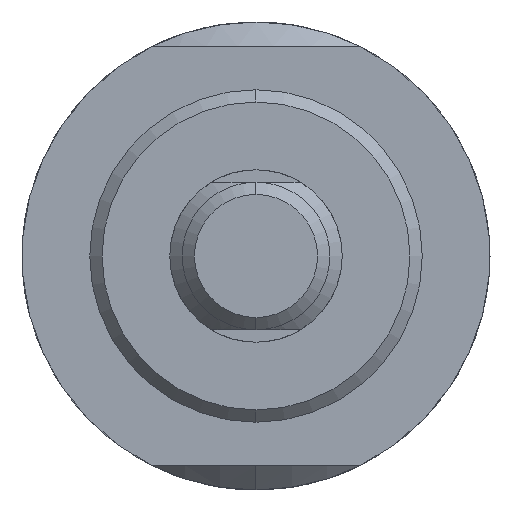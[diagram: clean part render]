
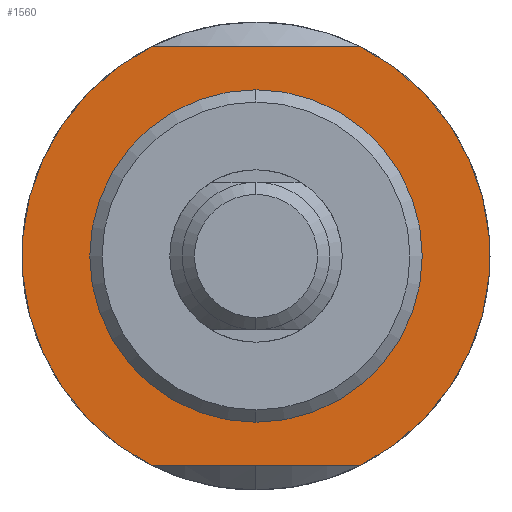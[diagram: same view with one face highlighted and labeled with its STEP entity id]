
A CAD part, left-side view. The second image highlights one B-rep face of the part: STEP entity #1560.
In plain terms, the highlighted planar face has unit normal (-1, 0, 0).
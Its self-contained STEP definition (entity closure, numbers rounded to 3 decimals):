
#97 = EDGE_CURVE ( 'NONE', #1385, #1202, #1181, .T. ) ;
#142 = CARTESIAN_POINT ( 'NONE',  ( 48., 0., 0. ) ) ;
#163 = VERTEX_POINT ( 'NONE', #327 ) ;
#209 = LINE ( 'NONE', #388, #1425 ) ;
#211 = AXIS2_PLACEMENT_3D ( 'NONE', #1589, #710, #1834 ) ;
#248 = DIRECTION ( 'NONE',  ( -1., 0., 0. ) ) ;
#249 = DIRECTION ( 'NONE',  ( -1., 0., 0. ) ) ;
#250 = EDGE_CURVE ( 'NONE', #1385, #163, #998, .T. ) ;
#327 = CARTESIAN_POINT ( 'NONE',  ( 48., -8.485, 17. ) ) ;
#343 = CARTESIAN_POINT ( 'NONE',  ( 48., 8.485, 17. ) ) ;
#349 = EDGE_CURVE ( 'NONE', #764, #714, #1074, .T. ) ;
#360 = AXIS2_PLACEMENT_3D ( 'NONE', #1620, #248, #743 ) ;
#388 = CARTESIAN_POINT ( 'NONE',  ( 48., 15., -17. ) ) ;
#390 = CARTESIAN_POINT ( 'NONE',  ( 48., 0., 0. ) ) ;
#413 = ORIENTED_EDGE ( 'NONE', *, *, #349, .F. ) ;
#425 = DIRECTION ( 'NONE',  ( 0., 0., 1. ) ) ;
#604 = ORIENTED_EDGE ( 'NONE', *, *, #1506, .F. ) ;
#646 = DIRECTION ( 'NONE',  ( 0., 0., 1. ) ) ;
#679 = FACE_BOUND ( 'NONE', #1882, .T. ) ;
#710 = DIRECTION ( 'NONE',  ( 1., 0., 0. ) ) ;
#714 = VERTEX_POINT ( 'NONE', #1546 ) ;
#743 = DIRECTION ( 'NONE',  ( 0., 0., 1. ) ) ;
#764 = VERTEX_POINT ( 'NONE', #1713 ) ;
#816 = AXIS2_PLACEMENT_3D ( 'NONE', #142, #1103, #874 ) ;
#826 = ORIENTED_EDGE ( 'NONE', *, *, #1518, .F. ) ;
#853 = EDGE_LOOP ( 'NONE', ( #1077, #604, #1996, #1556 ) ) ;
#865 = CARTESIAN_POINT ( 'NONE',  ( 48., 15., 17. ) ) ;
#870 = CARTESIAN_POINT ( 'NONE',  ( 48., 0., 0. ) ) ;
#874 = DIRECTION ( 'NONE',  ( 0., 0., 1. ) ) ;
#892 = CARTESIAN_POINT ( 'NONE',  ( 48., -8.485, -17. ) ) ;
#931 = VECTOR ( 'NONE', #1517, 1000. ) ;
#995 = AXIS2_PLACEMENT_3D ( 'NONE', #390, #1044, #646 ) ;
#998 = LINE ( 'NONE', #865, #931 ) ;
#1044 = DIRECTION ( 'NONE',  ( -1., 0., 0. ) ) ;
#1074 = CIRCLE ( 'NONE', #360, 13.5 ) ;
#1077 = ORIENTED_EDGE ( 'NONE', *, *, #97, .T. ) ;
#1095 = CIRCLE ( 'NONE', #1215, 19. ) ;
#1103 = DIRECTION ( 'NONE',  ( -1., 0., 0. ) ) ;
#1181 = CIRCLE ( 'NONE', #816, 19. ) ;
#1202 = VERTEX_POINT ( 'NONE', #1349 ) ;
#1215 = AXIS2_PLACEMENT_3D ( 'NONE', #870, #249, #425 ) ;
#1257 = CIRCLE ( 'NONE', #995, 13.5 ) ;
#1349 = CARTESIAN_POINT ( 'NONE',  ( 48., 8.485, -17. ) ) ;
#1351 = VERTEX_POINT ( 'NONE', #892 ) ;
#1385 = VERTEX_POINT ( 'NONE', #343 ) ;
#1425 = VECTOR ( 'NONE', #1780, 1000. ) ;
#1500 = FACE_OUTER_BOUND ( 'NONE', #853, .T. ) ;
#1506 = EDGE_CURVE ( 'NONE', #1351, #1202, #209, .T. ) ;
#1517 = DIRECTION ( 'NONE',  ( 0., -1., 0. ) ) ;
#1518 = EDGE_CURVE ( 'NONE', #714, #764, #1257, .T. ) ;
#1527 = EDGE_CURVE ( 'NONE', #1351, #163, #1095, .T. ) ;
#1546 = CARTESIAN_POINT ( 'NONE',  ( 48., 0., -13.5 ) ) ;
#1556 = ORIENTED_EDGE ( 'NONE', *, *, #250, .F. ) ;
#1560 = ADVANCED_FACE ( 'NONE', ( #679, #1500 ), #1831, .F. ) ;
#1589 = CARTESIAN_POINT ( 'NONE',  ( 48., 0., -19. ) ) ;
#1620 = CARTESIAN_POINT ( 'NONE',  ( 48., 0., 0. ) ) ;
#1713 = CARTESIAN_POINT ( 'NONE',  ( 48., 0., 13.5 ) ) ;
#1780 = DIRECTION ( 'NONE',  ( 0., 1., 0. ) ) ;
#1831 = PLANE ( 'NONE',  #211 ) ;
#1834 = DIRECTION ( 'NONE',  ( 0., 0., -1. ) ) ;
#1882 = EDGE_LOOP ( 'NONE', ( #413, #826 ) ) ;
#1996 = ORIENTED_EDGE ( 'NONE', *, *, #1527, .T. ) ;
